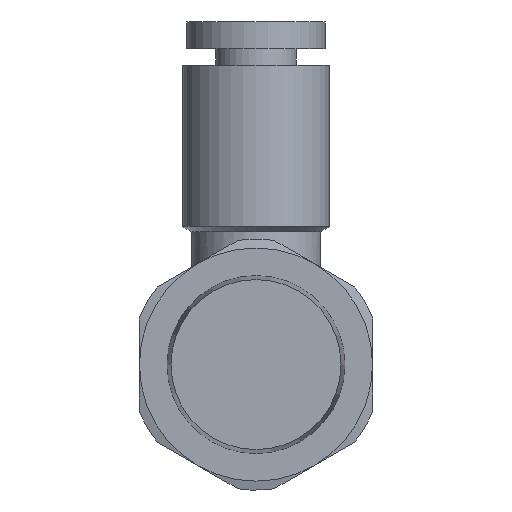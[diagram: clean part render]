
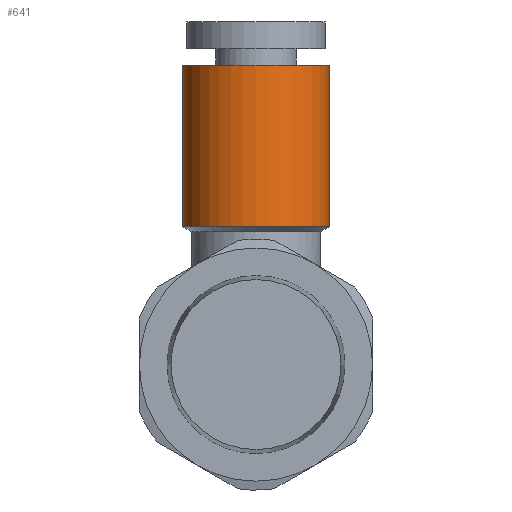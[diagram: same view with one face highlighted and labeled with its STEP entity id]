
A CAD part, front view. The second image highlights one B-rep face of the part: STEP entity #641.
In plain terms, the highlighted cylindrical face has radius 4.1 mm (diameter 8.2 mm), a full revolution.
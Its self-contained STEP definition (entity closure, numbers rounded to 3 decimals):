
#74=CYLINDRICAL_SURFACE('',#743,4.1);
#259=ORIENTED_EDGE('',*,*,#346,.F.);
#260=ORIENTED_EDGE('',*,*,#345,.T.);
#345=EDGE_CURVE('',#402,#402,#446,.T.);
#346=EDGE_CURVE('',#403,#403,#447,.T.);
#402=VERTEX_POINT('',#1214);
#403=VERTEX_POINT('',#1217);
#446=CIRCLE('',#742,4.1);
#447=CIRCLE('',#744,4.1);
#509=EDGE_LOOP('',(#259));
#510=EDGE_LOOP('',(#260));
#576=FACE_BOUND('',#509,.T.);
#577=FACE_BOUND('',#510,.T.);
#641=ADVANCED_FACE('',(#576,#577),#74,.T.);
#742=AXIS2_PLACEMENT_3D('',#1213,#931,#932);
#743=AXIS2_PLACEMENT_3D('',#1215,#933,#934);
#744=AXIS2_PLACEMENT_3D('',#1216,#935,#936);
#931=DIRECTION('',(0.,0.,-1.));
#932=DIRECTION('',(-1.,0.,0.));
#933=DIRECTION('',(0.,0.,-1.));
#934=DIRECTION('',(-1.,0.,0.));
#935=DIRECTION('',(0.,0.,-1.));
#936=DIRECTION('',(-1.,0.,0.));
#1213=CARTESIAN_POINT('',(0.,16.,16.7));
#1214=CARTESIAN_POINT('',(-4.1,16.,16.7));
#1215=CARTESIAN_POINT('',(0.,16.,0.));
#1216=CARTESIAN_POINT('',(0.,16.,7.7));
#1217=CARTESIAN_POINT('',(-4.1,16.,7.7));
